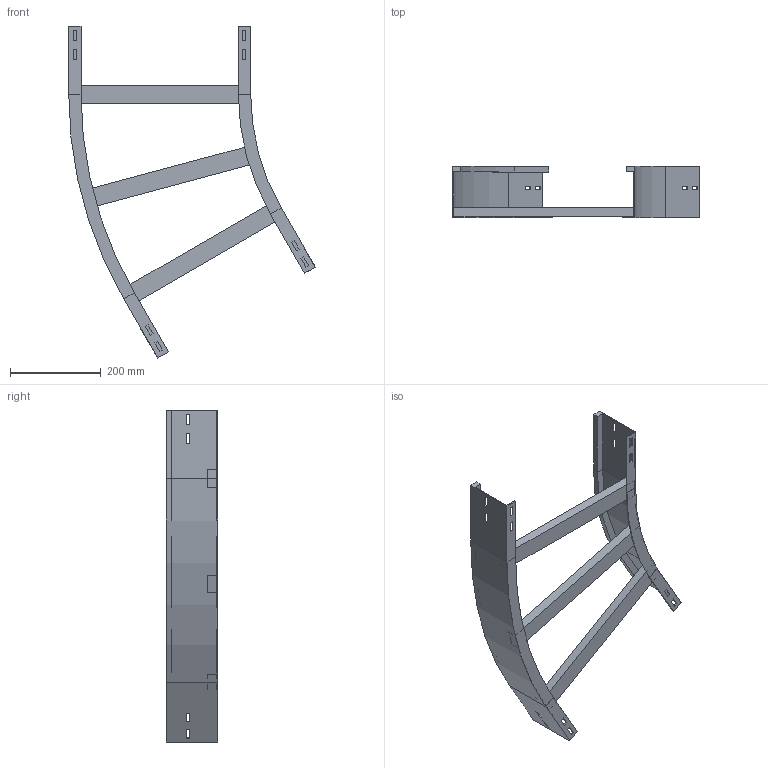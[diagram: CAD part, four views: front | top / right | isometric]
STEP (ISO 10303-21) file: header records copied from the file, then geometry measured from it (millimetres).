
FILE_DESCRIPTION (( 'STEP AP214' ), '1' );
FILE_NAME ('12B5J400.step', '2025-02-21T15:08:22', ( '' ), ( '' ), 'SwSTEP 2.0', 'SolidWorks 2023', '' );
FILE_SCHEMA (( 'AUTOMOTIVE_DESIGN' ));
Length unit declared in the file: millimetre
Products named in the file (4): 12B5J400; TRAVERSINO_400; A2_LONGH.ESTERNO 30°_H112.5_R500+400; A2_LONGH.INTERNO 30°_H112.5_R500
Assembly tree (5 placements, depth 2):
  12B5J400
    A2_LONGH.INTERNO 30°_H112.5_R500
    A2_LONGH.ESTERNO 30°_H112.5_R500+400
    TRAVERSINO_400  x3
Bounding box: 541.99 x 112.5 x 729.9 mm (x, y, z)
Volume: 1579880.9 mm3; surface area: 561978.9 mm2
Topology: 5 solids, 5 shells, 134 faces, 340 edges, 216 vertices
Faces by surface type: plane 126, cylinder 8
Entity records: 3821 total; most frequent: CARTESIAN_POINT 646, ORIENTED_EDGE 632, DIRECTION 592, EDGE_CURVE 316, LINE 300, VECTOR 300, VERTEX_POINT 200, EDGE_LOOP 154
